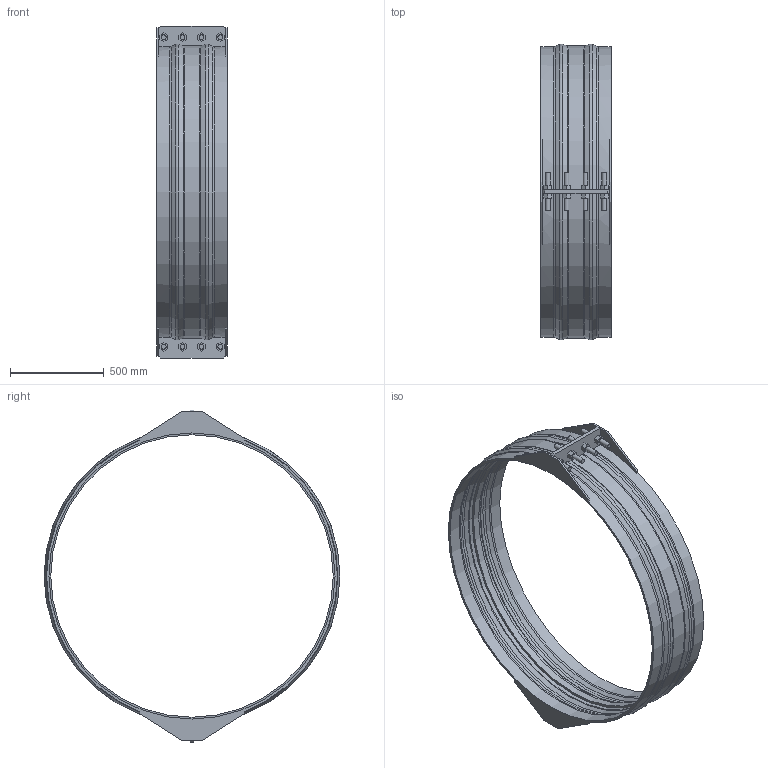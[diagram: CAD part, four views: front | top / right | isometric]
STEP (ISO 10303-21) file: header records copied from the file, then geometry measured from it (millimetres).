
FILE_DESCRIPTION(/* description */ ('VIC SS RESTRAINED COUPLING STYLE 233S (FLEX) (BRD)','CAx-IF Rec.Pracs.---Representation and Presentation of Product Manufacturing Information (PMI)---4.0---2014-10-13'),/* implementation_level */ '2;1');
FILE_NAME(/* name */ 'C:\Users\kkamble\AppData\Roaming\Autodesk\ApplicationPlugins\Back Up\Victaulic_VBSP_Coupling Flexible Restrained_Style 233S (BRD)\Victaulic_VBSP_Coupling Flexible Restrained_Style 233S (BRD)_150psi_60 (1500).stp',/* time_stamp */ '2020-09-22T18:30:43+05:00',/* author */ ('Vjadhav'),/* organization */ ('Victaulic'),/* preprocessor_version */ 'ST-DEVELOPER v17.2',/* originating_system */ 'Autodesk Inventor 2019',/* authorisation */ '');
FILE_SCHEMA (('AP242_MANAGED_MODEL_BASED_3D_ENGINEERING_MIM_LF { 1 0 10303 442 1 1 4 }'));
Length unit declared in the file: inch
Products named in the file (1): Style_233S_Type_2_150psi-60.0
Bounding box: 374.65 x 1576.09 x 1769.11 mm (x, y, z)
Volume: 29460320.9 mm3; surface area: 4510586.9 mm2
Topology: 1 solids, 1 shells, 239 faces, 625 edges, 422 vertices
Faces by surface type: plane 166, cylinder 43, torus 18, cone 12
Full cylindrical faces by diameter (mm): 25.4 x16, 1504.95 x1, 1524 x2, 1530.35 x2
Entity records: 7896 total; most frequent: CARTESIAN_POINT 1496, DIRECTION 1259, ORIENTED_EDGE 1250, EDGE_CURVE 625, LINE 449, VECTOR 449, VERTEX_POINT 422, AXIS2_PLACEMENT_3D 405
